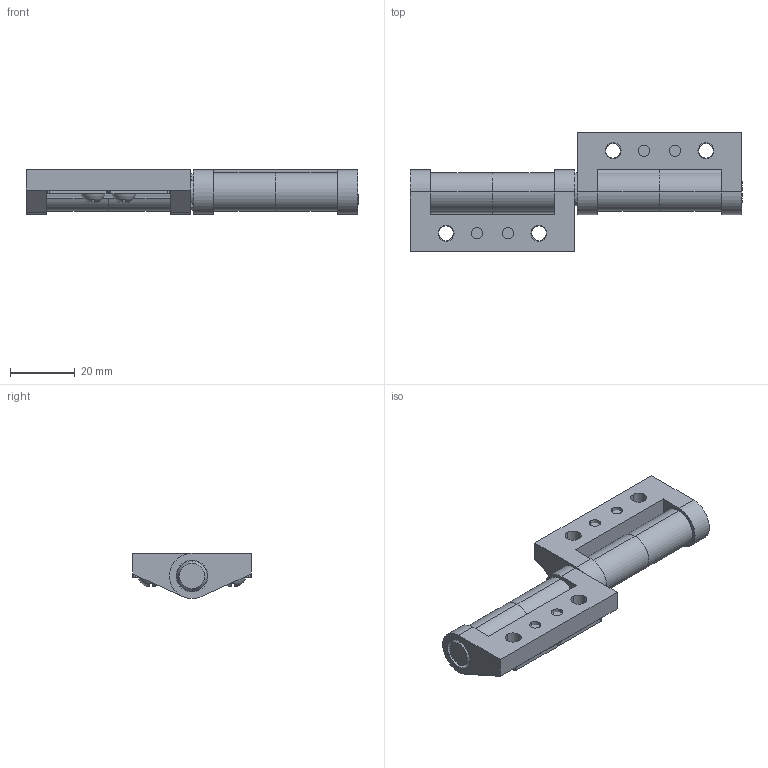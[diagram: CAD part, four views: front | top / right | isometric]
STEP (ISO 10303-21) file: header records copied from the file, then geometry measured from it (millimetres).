
FILE_DESCRIPTION(('STEP AP214'),'1');
FILE_NAME('C:/Users/HAN/Desktop/3000-0402-HNG L Rev 0_0.stp','2012-12-04T03:03:22',(' '),(' '),'Spatial InterOp 3D',' ',' ');
FILE_SCHEMA(('automotive_design'));
Length unit declared in the file: inch
Products named in the file (12): 3000-0001-BND Rev 0_0; 3000-0005-SHA Rev 0_0; 3000-0001-HOU Rev 0_0; Snap Ring 2000-37; Screw : Round - 0.164 x 0.25
Bounding box: 102.23 x 36.47 x 13.87 mm (x, y, z)
Volume: 21267 mm3; surface area: 18243.2 mm2
Topology: 12 solids, 12 shells, 328 faces, 858 edges, 560 vertices
Faces by surface type: plane 180, cylinder 128, cone 12, sphere 8
Entity records: 13219 total; most frequent: CARTESIAN_POINT 1974, DIRECTION 1858, ORIENTED_EDGE 1716, EDGE_CURVE 858, AXIS2_PLACEMENT_3D 676, VERTEX_POINT 560, LINE 506, VECTOR 506
